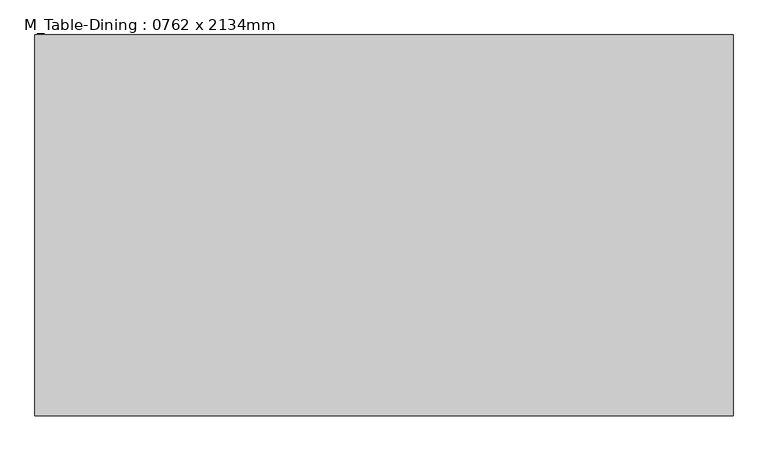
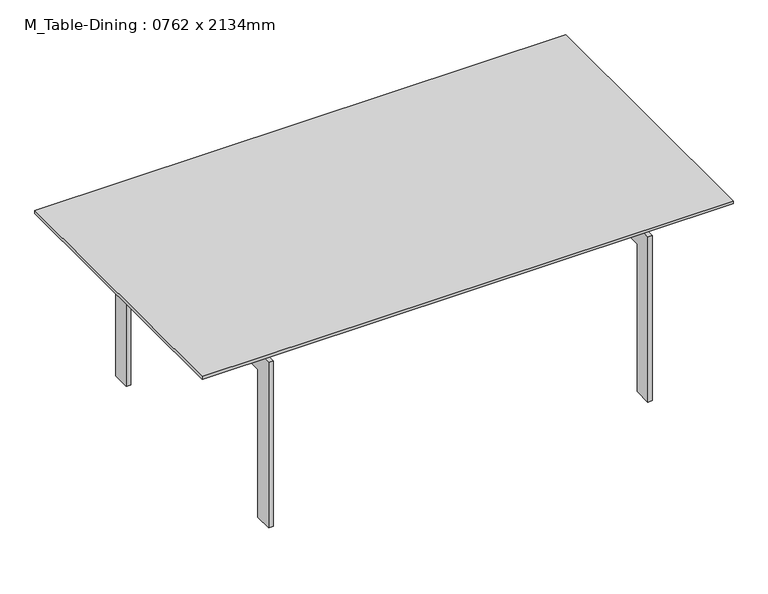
"""IFC4 building model written with IfcOpenShell, lengths in millimetres: furniture geometry, M_Table-Dining : 0762 x 2134mm."""

from ifc_helpers import new_model, si_unit, frame, origin, place, context, project, spatial, polyline, outline, extrude, source, transform, mapped, element, save


def m_table_dining_0762_x_2134mm_dd4f9230(model_context):
    return source(origin(), model_context, "Body", "SweptSolid", [
        extrude(outline(polyline([(1016.6657667, 297.7823857), (1016.6657667, 272.3823857), (-980.1342333, 272.3823857), (-980.1342333, 297.7823857), (1016.6657667, 297.7823857)])), frame((0.0, 0.0, 723.8), z_axis=(0.0, 0.0, 1.0), x_axis=(1.0, 0.0, 0.0)), (0.0, 0.0, 1.0), 63.5),
        extrude(outline(polyline([(1016.6657667, -82.5889222), (1016.6657667, -107.9889222), (-980.1342333, -107.9889222), (-980.1342333, -82.5889222), (1016.6657667, -82.5889222)])), frame((0.0, 0.0, 723.8), z_axis=(0.0, 0.0, 1.0), x_axis=(1.0, 0.0, 0.0)), (0.0, 0.0, 1.0), 63.5),
        extrude(outline(polyline([(644.4110778, 0.0), (568.2110778, 0.0), (568.2110778, 647.6), (-377.7889222, 647.6), (-377.7889222, 0.0), (-453.9889222, 0.0), (-453.9889222, 723.8), (644.4110778, 723.8), (644.4110778, 0.0)])), frame((794.4157667, 0.0, 0.0), z_axis=(1.0, 0.0, 0.0), x_axis=(0.0, 1.0, 0.0)), (0.0, 0.0, 1.0), 19.05),
        extrude(outline(polyline([(644.4110778, 723.8), (644.4110778, 0.0), (568.2110778, 0.0), (568.2110778, 647.6), (-377.7889222, 647.6), (-377.7889222, 0.0), (-453.9889222, 0.0), (-453.9889222, 723.8), (644.4110778, 723.8)])), frame((-776.9342333, 0.0, 0.0), z_axis=(1.0, 0.0, 0.0), x_axis=(0.0, 1.0, 0.0)), (0.0, 0.0, 1.0), 19.05),
        extrude(outline(polyline([(1118.2657667, 695.2110778), (1118.2657667, -504.7889222), (-1081.7342333, -504.7889222), (-1081.7342333, 695.2110778), (1118.2657667, 695.2110778)])), frame((0.0, 0.0, 787.3), z_axis=(0.0, 0.0, 1.0), x_axis=(1.0, 0.0, 0.0)), (0.0, 0.0, 1.0), 12.7),
    ])


if __name__ == "__main__":
    model = new_model("IFC4")
    model_context = context("Model", 3, world=origin())
    ifc_project = project(units=[si_unit("LENGTHUNIT", "METRE", prefix="MILLI")], contexts=[model_context])
    site = spatial("IfcSite", under=ifc_project)
    building = spatial("IfcBuilding", under=site)
    placement = place(None, origin())
    m_table_dining_0762_x_2134mm_shape = m_table_dining_0762_x_2134mm_dd4f9230(model_context)
    element("IfcFurniture", 1, ObjectType="M_Table-Dining : 0762 x 2134mm", at=placement, inside=building, context=model_context, shape_type="MappedRepresentation", body=[
        mapped(m_table_dining_0762_x_2134mm_shape, transform((0.0, 0.0, 0.0), x_axis=(1.0, 0.0, 0.0), y_axis=(0.0, 1.0, 0.0), z_axis=(0.0, 0.0, 1.0))),
    ])
    save(model, "model.ifc")
